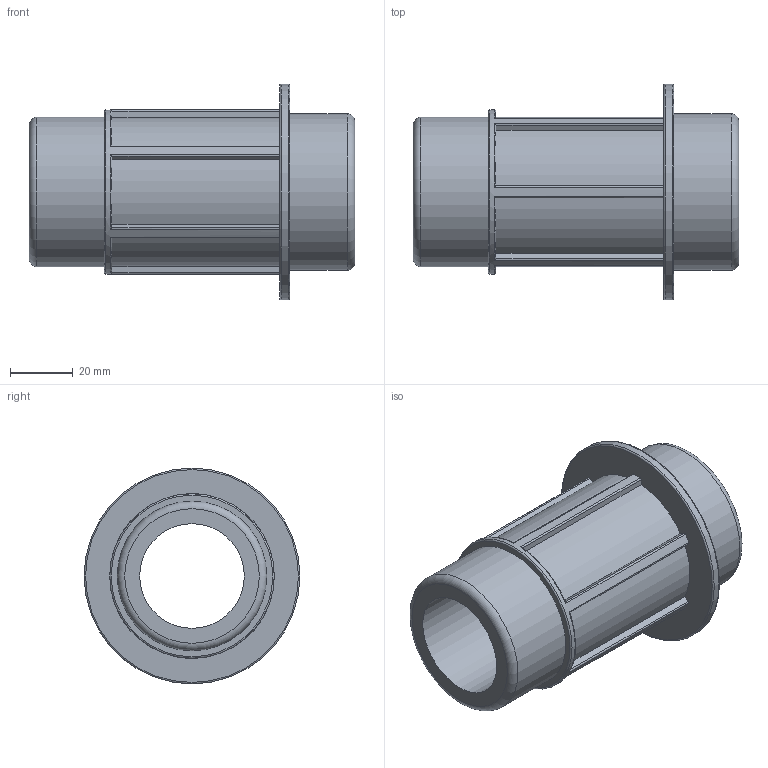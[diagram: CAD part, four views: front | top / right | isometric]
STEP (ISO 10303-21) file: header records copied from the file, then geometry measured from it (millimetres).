
FILE_DESCRIPTION(/* description */ ('PLASSON THREADED MALE ADAPTOR 50-1.1/2"'),/* implementation_level */ '2;1');
FILE_NAME(/* name */ 'C:\Dropbox\KIMPROJECTS-Inventor\99-16-3568-Processing\Silver+MF ISRAEL\078901\078901050015.ipt.stp',/* time_stamp */ '2018-04-09T13:02:01+03:00',/* author */ ('KIM'),/* organization */ (''),/* preprocessor_version */ 'ST-DEVELOPER v15.6',/* originating_system */ 'Autodesk Inventor 2015',/* authorisation */ '');
FILE_SCHEMA (('AUTOMOTIVE_DESIGN { 1 0 10303 214 3 1 1 }'));
Length unit declared in the file: millimetre
Products named in the file (1): 078901050015
Bounding box: 104 x 69 x 69 mm (x, y, z)
Volume: 108189.2 mm3; surface area: 34261 mm2
Topology: 1 solids, 1 shells, 57 faces, 151 edges, 99 vertices
Faces by surface type: cylinder 23, plane 23, torus 11
Full cylindrical faces by diameter (mm): 33.462 x1, 47.803 x1, 50 x1, 52.583 x1, 69 x1
Entity records: 1894 total; most frequent: CARTESIAN_POINT 488, DIRECTION 288, ORIENTED_EDGE 280, EDGE_CURVE 140, AXIS2_PLACEMENT_3D 114, VERTEX_POINT 98, EDGE_LOOP 72, LINE 60
